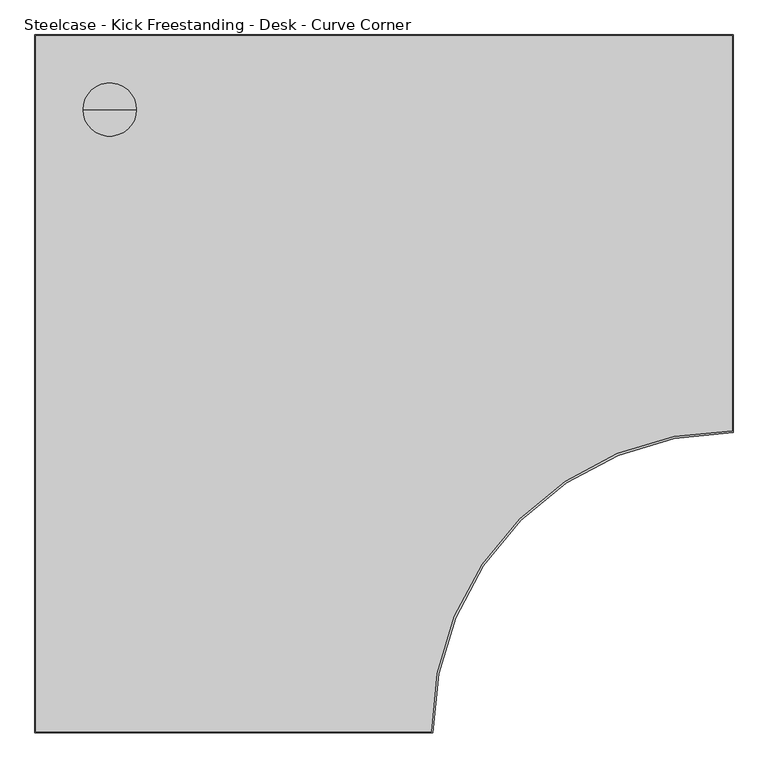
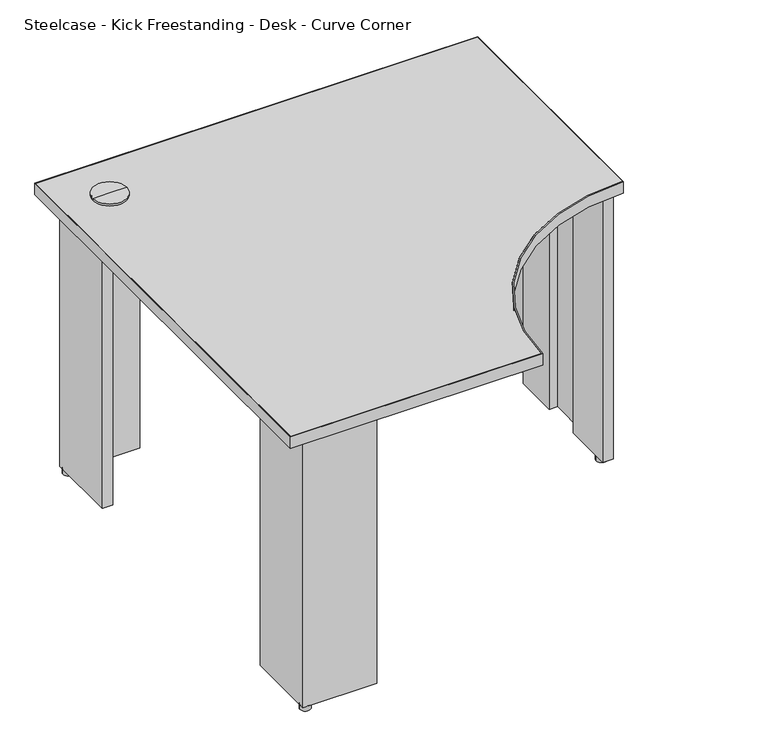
"""IFC4 building model written with IfcOpenShell, lengths in millimetres: furniture geometry, Steelcase - Kick Freestanding - Desk - Curve Corner : 24D x 42W - Right Full End Panel/Left Clear Access Support - LPL."""

from ifc_helpers import new_model, si_unit, point, frame, frame_2d, origin, origin_with_axes, place, context, project, spatial, polyline, circle_curve, trimmed, segment, composite_curve, outline, extrude, source, transform, mapped, element, save
from ifc_brep_helpers import plane_surface, cylinder_surface, advanced_brep


def steelcase_kick_freestanding_desk_curve_corner_e8fb246e(model_context):
    return source(origin(), model_context, "Body", "SolidModel", [
        extrude(outline(composite_curve([segment(trimmed(circle_curve(frame_2d((1038.8853521, -565.8064761)), 12.7), [point((1026.1853521, -565.8064761))], [point((1051.5853521, -565.8064761))], False, "CARTESIAN"), True, "CONTINUOUS"), segment(trimmed(circle_curve(frame_2d((1038.8853521, -565.8064761)), 12.7), [point((1051.5853521, -565.8064761))], [point((1026.1853521, -565.8064761))], False, "CARTESIAN"), True, "CONTINUOUS")], self_intersect=False)), origin_with_axes(), (0.0, 0.0, 1.0), 12.446),
        extrude(outline(polyline([(215.8999939, -63.5), (63.5, -63.5), (63.5, -215.8999939), (38.1, -215.8999939), (38.1, -38.1), (215.8999939, -38.1), (215.8999939, -63.5)])), frame((0.0, 0.0, 12.446), z_axis=(0.0, 0.0, 1.0), x_axis=(1.0, 0.0, 0.0)), (0.0, 0.0, 1.0), 682.498),
        extrude(outline(polyline([(874.0393822, -63.5), (874.0393822, -38.1), (1051.8393579, -38.1), (1051.8393579, -592.582), (1025.9313463, -592.582), (1025.9313463, -469.5444), (1046.098945, -469.5444), (1046.098945, -369.824), (1025.9313463, -369.824), (1025.9313463, -261.0866), (1046.098945, -261.0866), (1046.098945, -161.3662), (1025.9313463, -161.3662), (1025.9313463, -63.5), (874.0393822, -63.5)])), frame((0.0, 0.0, 12.446), z_axis=(0.0, 0.0, 1.0), x_axis=(1.0, 0.0, 0.0)), (0.0, 0.0, 1.0), 682.498),
        advanced_brep(
        [(114.3, -114.3, 728.98), (154.94, -114.3, 728.98), (73.66, -114.3, 728.98), (76.1699693, -114.3, 694.944), (152.4300307, -114.3, 694.944), (114.3, -114.3, 694.944), (76.1699693, -114.3, 723.9), (152.4300307, -114.3, 723.9), (73.66, -114.3, 723.9), (154.94, -114.3, 723.9)],
        [
            (0, 1),
            (1, 2, circle_curve(frame((114.3, -114.3, 728.98), z_axis=(0.0, 0.0, 1.0), x_axis=(1.0, 0.0, 0.0)), 40.64)),
            (2, 0),
            (2, 1, circle_curve(frame((114.3, -114.3, 728.98), z_axis=(0.0, 0.0, 1.0), x_axis=(1.0, 0.0, 0.0)), 40.64)),
            (3, 4, circle_curve(frame((114.3, -114.3, 694.944), z_axis=(0.0, 0.0, -1.0), x_axis=(1.0, 0.0, 0.0)), 38.1300307)),
            (4, 5),
            (5, 3),
            (4, 3, circle_curve(frame((114.3, -114.3, 694.944), z_axis=(0.0, 0.0, -1.0), x_axis=(1.0, 0.0, 0.0)), 38.1300307)),
            (6, 7, circle_curve(frame((114.3, -114.3, 723.9), z_axis=(0.0, 0.0, -1.0), x_axis=(1.0, 0.0, 0.0)), 38.1300307)),
            (7, 4),
            (3, 6),
            (7, 6, circle_curve(frame((114.3, -114.3, 723.9), z_axis=(0.0, 0.0, -1.0), x_axis=(1.0, 0.0, 0.0)), 38.1300307)),
            (8, 9, circle_curve(frame((114.3, -114.3, 723.9), z_axis=(0.0, 0.0, -1.0), x_axis=(1.0, 0.0, 0.0)), 40.64)),
            (9, 7),
            (6, 8),
            (9, 8, circle_curve(frame((114.3, -114.3, 723.9), z_axis=(0.0, 0.0, -1.0), x_axis=(1.0, 0.0, 0.0)), 40.64)),
            (1, 9),
            (8, 2),
        ],
        [
            plane_surface(frame((114.3, -114.3, 728.98), z_axis=(0.0, 0.0, 1.0), x_axis=(1.0, 0.0, 0.0))),
            plane_surface(frame((114.3, -114.3, 694.944), z_axis=(0.0, 0.0, -1.0), x_axis=(1.0, 0.0, 0.0))),
            cylinder_surface(frame((114.3, -114.3, 728.98), z_axis=(0.0, 0.0, 1.0), x_axis=(1.0, 0.0, 0.0)), 38.1300307),
            plane_surface(frame((114.3, -114.3, 723.9), z_axis=(0.0, 0.0, -1.0), x_axis=(1.0, 0.0, 0.0))),
            cylinder_surface(frame((114.3, -114.3, 728.98), z_axis=(0.0, 0.0, 1.0), x_axis=(1.0, 0.0, 0.0)), 40.64),
        ],
        [
            (0, [[1, 2, 3]]),
            (0, [[-3, 4, -1]]),
            (1, [[5, 6, 7]]),
            (1, [[8, -7, -6]]),
            (2, [[9, 10, -5, 11]]),
            (2, [[12, -11, -8, -10]]),
            (3, [[13, 14, -9, 15]]),
            (3, [[16, -15, -12, -14]]),
            (4, [[-2, 17, -13, 18]]),
            (4, [[-4, -18, -16, -17]]),
        ],
    ),
        extrude(outline(composite_curve([segment(trimmed(circle_curve(frame_2d((50.8, -50.8)), 12.7), [point((38.1, -50.8))], [point((63.5, -50.8))], False, "CARTESIAN"), True, "CONTINUOUS"), segment(trimmed(circle_curve(frame_2d((50.8, -50.8)), 12.7), [point((63.5, -50.8))], [point((38.1, -50.8))], False, "CARTESIAN"), True, "CONTINUOUS")], self_intersect=False)), origin_with_axes(), (0.0, 0.0, 1.0), 12.446),
        extrude(outline(composite_curve([segment(trimmed(circle_curve(frame_2d((50.8, -1040.1300073)), 12.7484998), [point((38.0515002, -1040.1300073))], [point((63.5484998, -1040.1300073))], False, "CARTESIAN"), True, "CONTINUOUS"), segment(trimmed(circle_curve(frame_2d((50.8, -1040.1300073)), 12.7484998), [point((63.5484998, -1040.1300073))], [point((38.0515002, -1040.1300073))], False, "CARTESIAN"), True, "CONTINUOUS")], self_intersect=False)), origin_with_axes(), (0.0, 0.0, 1.0), 12.446),
        extrude(outline(composite_curve([segment(trimmed(circle_curve(frame_2d((1038.8853521, -50.8)), 12.7), [point((1026.1853521, -50.8))], [point((1051.5853521, -50.8))], False, "CARTESIAN"), True, "CONTINUOUS"), segment(trimmed(circle_curve(frame_2d((1038.8853521, -50.8)), 12.7), [point((1051.5853521, -50.8))], [point((1026.1853521, -50.8))], False, "CARTESIAN"), True, "CONTINUOUS")], self_intersect=False)), origin_with_axes(), (0.0, 0.0, 1.0), 12.446),
        extrude(outline(polyline([(215.8999939, -1027.4300194), (215.8999939, -1052.8299952), (38.1, -1052.8299952), (38.1, -875.0300194), (63.5, -875.0300194), (63.5, -1027.4300194), (215.8999939, -1027.4300194)])), frame((0.0, 0.0, 12.446), z_axis=(0.0, 0.0, 1.0), x_axis=(1.0, 0.0, 0.0)), (0.0, 0.0, 1.0), 682.498),
        extrude(outline(composite_curve([segment(polyline([(0.9906, -1065.8093628), (0.9906, -0.9906), (1065.8093628, -0.9906), (1065.8093628, -605.3354109)]), True, "CONTINUOUS"), segment(trimmed(circle_curve(frame_2d((1064.5393458, -1064.5393458)), 459.2056912), [point((1065.8093628, -605.3354109))], [point((605.3354109, -1065.8093628))], True, "CARTESIAN"), True, "CONTINUOUS"), segment(polyline([(605.3354109, -1065.8093628), (0.9906, -1065.8093628)]), True, "CONTINUOUS")], self_intersect=False)), frame((0.0, 0.0, 694.944), z_axis=(0.0, 0.0, 1.0), x_axis=(1.0, 0.0, 0.0)), (0.0, 0.0, 1.0), 28.956),
        extrude(outline(composite_curve([segment(polyline([(1066.8, 0.0), (1066.8, -608.332629)]), True, "CONTINUOUS"), segment(trimmed(circle_curve(frame_2d((1065.529983, -1065.529983)), 457.199118), [point((1066.8, -608.332629))], [point((608.332629, -1066.8))], True, "CARTESIAN"), True, "CONTINUOUS"), segment(polyline([(608.332629, -1066.8), (0.0, -1066.8), (0.0, 0.0), (1066.8, 0.0)]), True, "CONTINUOUS")], self_intersect=False), holes=[composite_curve([segment(polyline([(1065.8093628, -0.9906), (0.9906, -0.9906), (0.9906, -1065.8093628), (605.3354109, -1065.8093628)]), True, "CONTINUOUS"), segment(trimmed(circle_curve(frame_2d((1064.5393458, -1064.5393458)), 459.2056912), [point((605.3354109, -1065.8093628))], [point((1065.8093628, -605.3354109))], False, "CARTESIAN"), True, "CONTINUOUS"), segment(polyline([(1065.8093628, -605.3354109), (1065.8093628, -0.9906)]), True, "CONTINUOUS")], self_intersect=False)]), frame((0.0, 0.0, 694.944), z_axis=(0.0, 0.0, 1.0), x_axis=(1.0, 0.0, 0.0)), (0.0, 0.0, 1.0), 28.956),
    ])


if __name__ == "__main__":
    model = new_model("IFC4")
    model_context = context("Model", 3, world=origin())
    ifc_project = project(units=[si_unit("LENGTHUNIT", "METRE", prefix="MILLI")], contexts=[model_context])
    site = spatial("IfcSite", under=ifc_project)
    building = spatial("IfcBuilding", under=site)
    placement = place(None, origin())
    steelcase_kick_freestanding_desk_curve_corner_shape = steelcase_kick_freestanding_desk_curve_corner_e8fb246e(model_context)
    element("IfcFurniture", 1, ObjectType="Steelcase - Kick Freestanding - Desk - Curve Corner : 24D x 42W - Right Full End Panel/Left Clear Access Support - LPL", at=placement, inside=building, context=model_context, shape_type="MappedRepresentation", body=[
        mapped(steelcase_kick_freestanding_desk_curve_corner_shape, transform((0.0, 0.0, 0.0), x_axis=(1.0, 0.0, 0.0), y_axis=(0.0, 1.0, 0.0), z_axis=(0.0, 0.0, 1.0))),
    ])
    save(model, "model.ifc")
